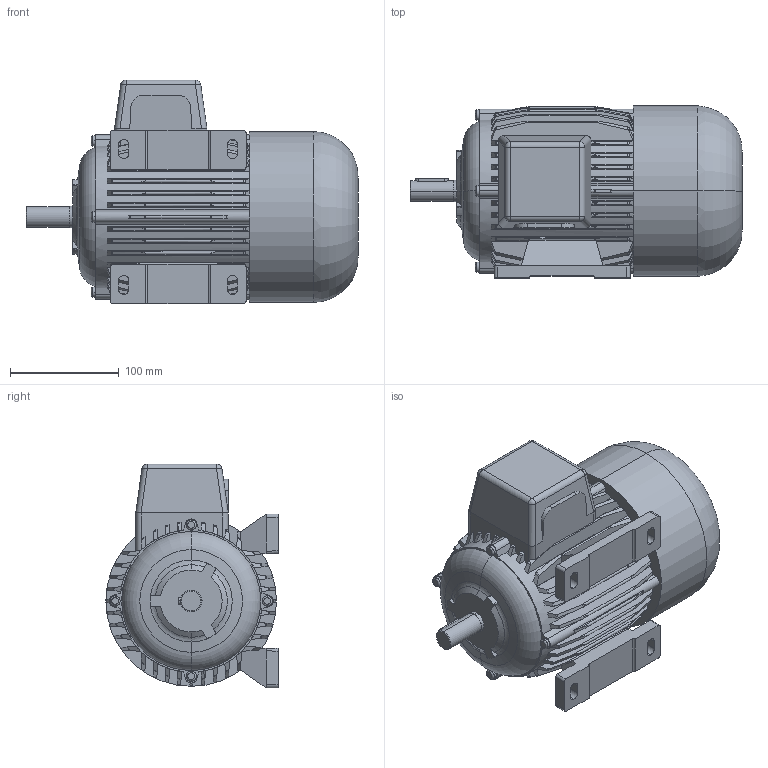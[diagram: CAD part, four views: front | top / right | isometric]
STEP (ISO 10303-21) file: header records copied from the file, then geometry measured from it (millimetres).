
FILE_DESCRIPTION(('OneSpaceDesigner STEP Export'),'2;1');
FILE_NAME('OG8_B3.stp','2008-08-20T 8:03:23',(''),(''),'OneSpace Designer STEP processor (Jan. 2003) for AP214(CD)(Solid Model)','OneSpace Designer 12.01D 09-Jul-2004 (C) CoCreate Software GmbH','');
FILE_SCHEMA(('AUTOMOTIVE_DESIGN_CC2 {1 2 10303 214 -1 1 5 1}'));
Length unit declared in the file: millimetre
Products named in the file (2): OG8_B3
Assembly tree (1 placements, depth 2):
  OG8_B3
    OG8_B3
Bounding box: 305.5 x 158.5 x 206 mm (x, y, z)
Volume: 4690275.7 mm3; surface area: 270368.3 mm2
Topology: 1 solids, 1 shells, 559 faces, 1552 edges, 1024 vertices
Faces by surface type: plane 172, cone 165, cylinder 138, torus 78, sphere 4, extrusion 2
Entity records: 44830 total; most frequent: CARTESIAN_POINT 31846, ORIENTED_EDGE 3096, DIRECTION 1946, EDGE_CURVE 1548, VERTEX_POINT 1024, AXIS2_PLACEMENT_3D 744, EDGE_LOOP 600, B_SPLINE_CURVE_WITH_KNOTS 585
